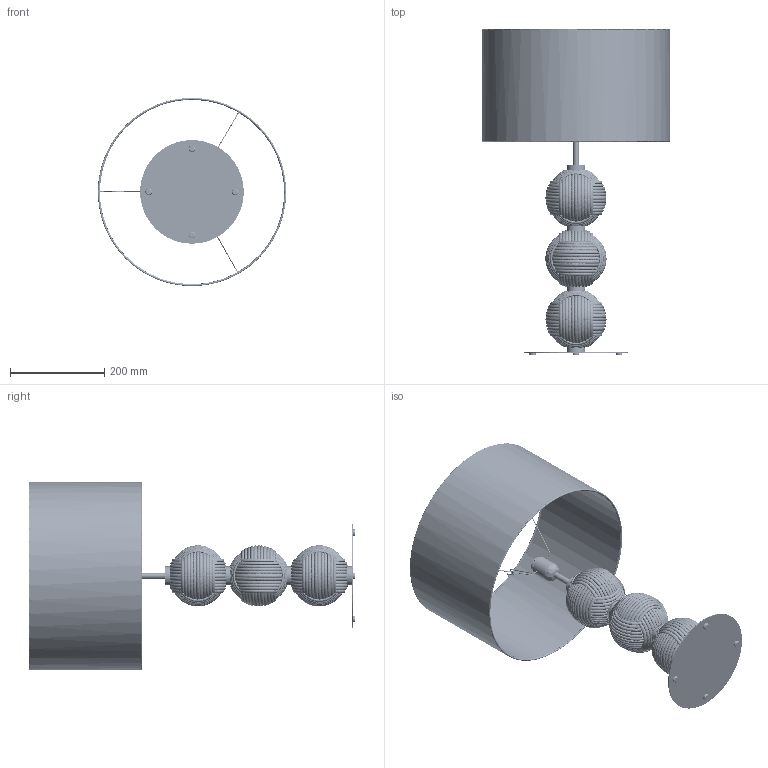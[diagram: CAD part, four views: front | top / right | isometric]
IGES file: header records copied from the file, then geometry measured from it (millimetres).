
Start section: SolidWorks IGES file using analytic representation for surfaces
Global section: file name: C:\Users\adrian\Desktop\BOLA CERAMICA_NAC150\3D\NAC150.IGS; native system: SolidWorks 2023; preprocessor: SolidWorks 2023; author: adrian; date: 260703.180006; units: millimetre
Bounding box: 399.7 x 694 x 399.99 mm (x, y, z)
Surface area: 1563536.4 mm2 (no closed solid volume)
Topology: 0 solids, 0 shells, 830 faces, 13941 edges, 13941 vertices
Faces by surface type: bspline 632, revolution 198
